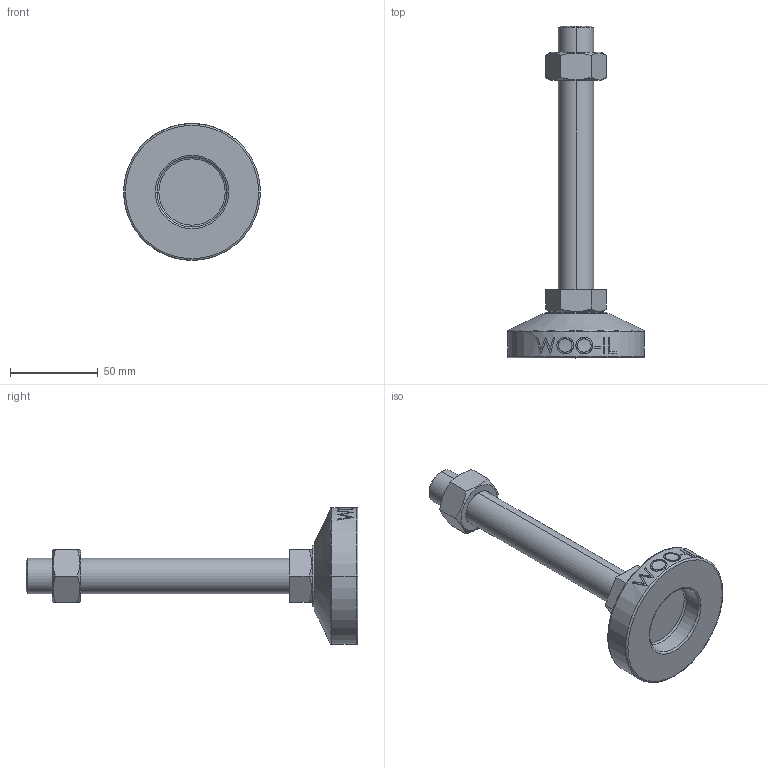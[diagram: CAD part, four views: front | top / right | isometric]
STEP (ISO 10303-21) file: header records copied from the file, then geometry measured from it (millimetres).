
FILE_DESCRIPTION (( 'STEP AP214' ), '1' );
FILE_NAME ('MFZ78-M20-150.step', '2021-01-15T07:08:48', ( '' ), ( '' ), 'SwSTEP 2.0', 'SolidWorks 2019', '' );
FILE_SCHEMA (( 'AUTOMOTIVE_DESIGN' ));
Length unit declared in the file: millimetre
Products named in the file (2): MFZ78-M20-150
Bounding box: 78 x 189 x 78 mm (x, y, z)
Volume: 151555.2 mm3; surface area: 30760.1 mm2
Topology: 3 solids, 3 shells, 106 faces, 247 edges, 158 vertices
Faces by surface type: plane 48, cylinder 18, bspline 16, cone 14, torus 10
Entity records: 4628 total; most frequent: CARTESIAN_POINT 2265, ORIENTED_EDGE 494, DIRECTION 439, EDGE_CURVE 247, AXIS2_PLACEMENT_3D 170, VERTEX_POINT 158, EDGE_LOOP 119, FACE_OUTER_BOUND 106
